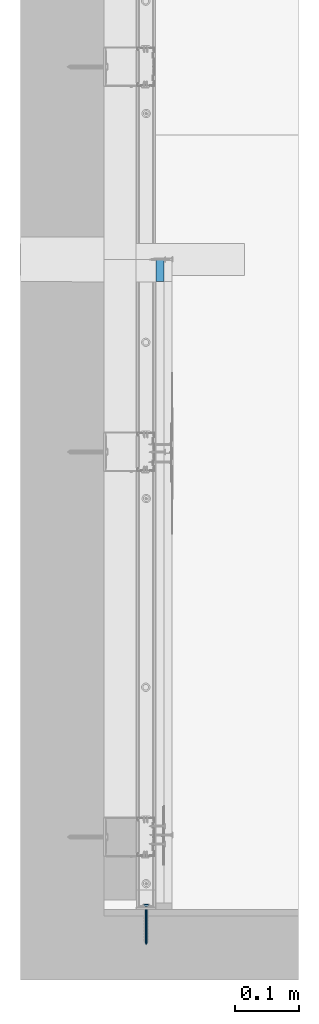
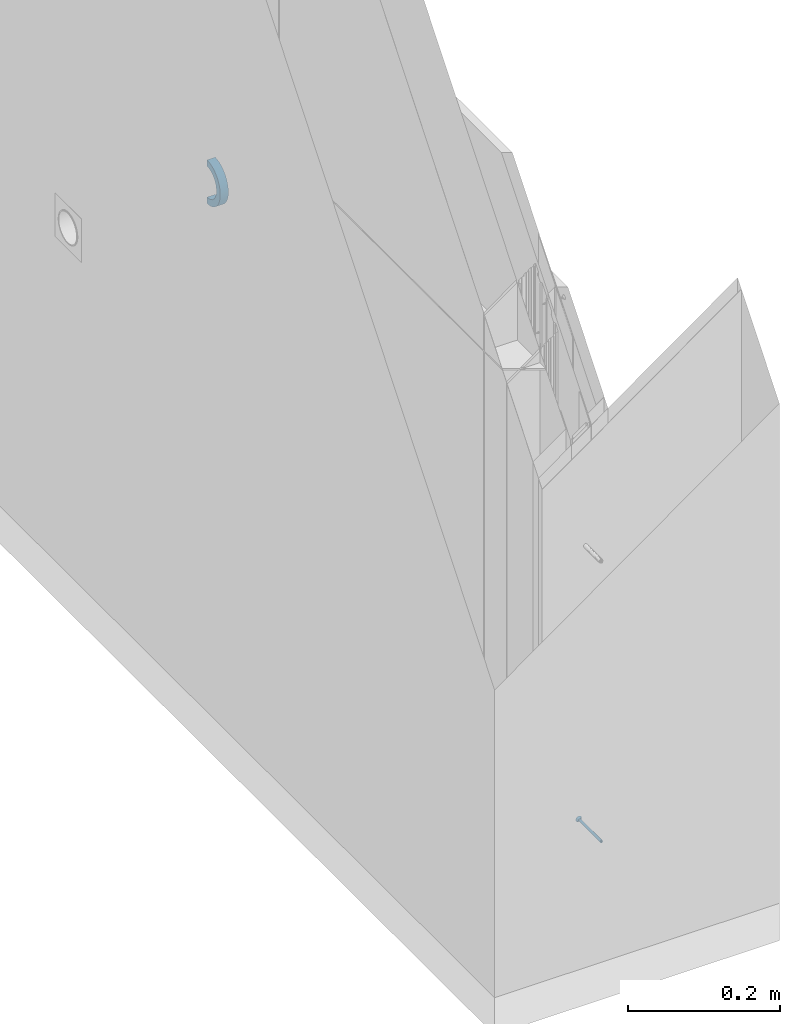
# One storey, part 47 of 61: 2 walls.
"""IFC2X3 building model written with IfcOpenShell, lengths in millimetres."""

from ifc_helpers import new_model, si_unit, frame, origin_with_axes, place, context, subcontext, project, spatial, faceted_brep, material, type_object, element, save


model = new_model("IFC2X3")

# Units and contexts
model_context = context("Model", 3, world=origin_with_axes())
body_context = subcontext(model_context, "Body", "Model", "MODEL_VIEW")
ifc_project = project(units=[si_unit("LENGTHUNIT", "METRE", prefix="MILLI"), si_unit("AREAUNIT", "SQUARE_METRE"), si_unit("VOLUMEUNIT", "CUBIC_METRE")], contexts=[model_context])

# Site, building, storey
site_placement = place(None, frame((2152.1410261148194, -2015.0250894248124, 57.61556563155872), z_axis=(0.0, 0.0, 1.0), x_axis=(-1.1102230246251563e-16, 1.0, 0.0)))
site = spatial("IfcSite", under=ifc_project, at=site_placement, Name="Default Site", CompositionType="ELEMENT")
building_placement = place(site_placement, origin_with_axes())
building = spatial("IfcBuilding", under=site, at=building_placement, Name="Default Building", CompositionType="ELEMENT")
storey_placement = place(building_placement, origin_with_axes())
storey = spatial("IfcBuildingStorey", under=building, at=storey_placement, Name="Default Building Storey", CompositionType="ELEMENT", Elevation=57.61556563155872)

# Walls
ifc_material_1 = material(Name="M08_Obsidian_Black")
wall_type_1 = type_object("IfcWallType", Name="Wypełnienie masą szpachlową RIGIPS", PredefinedType="NOTDEFINED")
wall_1_placement = place(storey_placement, frame((3138.037079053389, 1928.6800774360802, 609.2578275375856), z_axis=(0.0, 0.0, 1.0), x_axis=(1.0, 0.0, 0.0)))
element("IfcWall", 1, at=wall_1_placement, inside=storey, type_object=wall_type_1, material=ifc_material_1, Name="Wypełnienie masą szpachlową RIGIPS", context=body_context, shape_type="Brep", body=[
    faceted_brep([(0.0, 12.50000009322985, -84.9303099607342), (0.0, 12.50000009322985, -74.74771466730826), (0.0, 4.511946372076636e-14, -74.74771466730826), (0.0, 4.511946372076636e-14, -84.9303099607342), (-2.1976681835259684, 12.50000009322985, -84.8612454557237), (-4.386663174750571, 12.50000009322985, -84.65432450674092), (-6.558346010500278, 12.50000009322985, -84.31036373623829), (-8.704146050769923, 12.50000009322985, -83.8307206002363), (-10.815594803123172, 12.500000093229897, -83.21728803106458), (-12.884359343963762, 12.500000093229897, -82.47248696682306), (-14.902275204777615, 12.500000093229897, -81.59925679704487), (-16.86137859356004, 12.500000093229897, -80.60104376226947), (-18.753937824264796, 12.500000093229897, -79.48178735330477), (-20.57248383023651, 12.500000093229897, -78.2459047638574), (-22.309839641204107, 12.500000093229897, -76.89827345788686), (-23.959148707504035, 12.500000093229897, -75.44421192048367), (-25.513901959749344, 12.500000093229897, -73.88945866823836), (-26.967963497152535, 12.500000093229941, -72.24014960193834), (-28.31559480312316, 12.500000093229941, -70.50279379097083), (-29.55147739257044, 12.500000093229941, -68.68424778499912), (-30.670733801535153, 12.500000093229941, -66.79168855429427), (-31.668946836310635, 12.500000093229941, -64.83258516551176), (-32.54217700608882, 12.500000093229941, -62.8146693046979), (-33.28697807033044, 12.500000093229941, -60.7459047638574), (-33.900410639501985, 12.500000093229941, -58.634456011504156), (-34.38005377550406, 12.500000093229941, -56.4886559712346), (-34.724014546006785, 12.500000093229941, -54.31697313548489), (-34.93093549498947, 12.500000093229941, -52.1279781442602), (-34.99999999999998, 12.500000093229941, -49.930309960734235), (-34.93093549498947, 12.500000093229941, -47.732641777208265), (-34.724014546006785, 12.500000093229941, -45.54364678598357), (-34.38005377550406, 12.500000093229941, -43.37196395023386), (-33.900410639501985, 12.500000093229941, -41.226163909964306), (-33.28697807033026, 12.500000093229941, -39.11471515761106), (-32.54217700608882, 12.500000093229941, -37.04595061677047), (-31.668946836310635, 12.500000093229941, -35.02803475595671), (-30.670733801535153, 12.500000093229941, -33.068931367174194), (-29.55147739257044, 12.500000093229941, -31.176372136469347), (-28.31559480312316, 12.500000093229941, -29.35782613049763), (-26.967963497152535, 12.500000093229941, -27.620470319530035), (-25.513901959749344, 12.500000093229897, -25.971161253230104), (-23.959148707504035, 12.500000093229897, -24.4164080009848), (-22.309839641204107, 12.500000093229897, -22.962346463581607), (-20.57248383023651, 12.500000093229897, -21.61471515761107), (-18.753937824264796, 12.500000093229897, -20.3788325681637), (-16.86137859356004, 12.500000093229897, -19.25957615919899), (-14.902275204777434, 12.500000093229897, -18.261363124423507), (-12.884359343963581, 12.500000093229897, -17.38813295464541), (-10.815594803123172, 12.500000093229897, -16.643331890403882), (-8.704146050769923, 12.50000009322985, -16.029899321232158), (-6.558346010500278, 12.50000009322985, -15.550256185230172), (-4.386663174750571, 12.50000009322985, -15.206295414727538), (-2.1976681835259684, 12.50000009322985, -14.999374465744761), (0.0, 12.50000009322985, -14.93030996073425), (0.0, 12.50000009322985, -25.112905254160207), (-4.503166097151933, 12.500000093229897, -25.339224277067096), (-10.714365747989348, 12.500000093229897, -27.342650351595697), (-16.19539907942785, 12.500000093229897, -30.885388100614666), (-20.57274272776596, 12.500000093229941, -35.726005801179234), (-23.5480879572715, 12.500000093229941, -41.53462335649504), (-24.918669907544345, 12.500000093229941, -47.91539307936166), (-24.59108568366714, 12.500000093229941, -54.43347605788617), (-22.587659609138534, 12.500000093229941, -60.64467570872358), (-19.04492186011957, 12.500000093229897, -66.12570904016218), (-14.204304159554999, 12.500000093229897, -70.50305268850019), (-8.395686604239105, 12.500000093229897, -73.47839791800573), (-2.0149168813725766, 12.50000009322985, -74.84897986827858), (-2.0149168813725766, 4.511946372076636e-14, -74.84897986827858), (-8.395686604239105, 9.023892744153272e-14, -73.47839791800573), (-14.204304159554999, 9.023892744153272e-14, -70.50305268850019), (-19.04492186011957, 9.023892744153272e-14, -66.12570904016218), (-22.587659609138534, 1.3535839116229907e-13, -60.64467570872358), (-24.59108568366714, 1.3535839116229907e-13, -54.43347605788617), (-24.918669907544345, 1.3535839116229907e-13, -47.91539307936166), (-23.5480879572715, 1.3535839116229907e-13, -41.53462335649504), (-20.57274272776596, 1.3535839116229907e-13, -35.726005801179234), (-16.19539907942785, 9.023892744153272e-14, -30.885388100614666), (-10.714365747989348, 9.023892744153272e-14, -27.342650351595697), (-4.503166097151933, 9.023892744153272e-14, -25.339224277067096), (0.0, 4.511946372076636e-14, -25.112905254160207), (0.0, 4.511946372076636e-14, -14.93030996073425), (-2.1976681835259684, 4.511946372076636e-14, -14.999374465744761), (-4.386663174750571, 4.511946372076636e-14, -15.206295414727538), (-6.558346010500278, 4.511946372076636e-14, -15.550256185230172), (-8.704146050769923, 4.511946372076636e-14, -16.029899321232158), (-10.815594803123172, 9.023892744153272e-14, -16.643331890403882), (-12.884359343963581, 9.023892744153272e-14, -17.38813295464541), (-14.902275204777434, 9.023892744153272e-14, -18.261363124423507), (-16.86137859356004, 9.023892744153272e-14, -19.25957615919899), (-18.753937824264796, 9.023892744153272e-14, -20.3788325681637), (-20.57248383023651, 9.023892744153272e-14, -21.61471515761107), (-22.309839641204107, 9.023892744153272e-14, -22.962346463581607), (-23.959148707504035, 9.023892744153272e-14, -24.4164080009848), (-25.513901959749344, 9.023892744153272e-14, -25.971161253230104), (-26.967963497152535, 1.3535839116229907e-13, -27.620470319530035), (-28.31559480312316, 1.3535839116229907e-13, -29.35782613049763), (-29.55147739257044, 1.3535839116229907e-13, -31.176372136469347), (-30.670733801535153, 1.3535839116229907e-13, -33.068931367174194), (-31.668946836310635, 1.3535839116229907e-13, -35.02803475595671), (-32.54217700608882, 1.3535839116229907e-13, -37.04595061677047), (-33.28697807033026, 1.3535839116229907e-13, -39.11471515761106), (-33.900410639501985, 1.3535839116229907e-13, -41.226163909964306), (-34.38005377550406, 1.3535839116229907e-13, -43.37196395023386), (-34.724014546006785, 1.3535839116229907e-13, -45.54364678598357), (-34.93093549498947, 1.3535839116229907e-13, -47.732641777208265), (-34.99999999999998, 1.3535839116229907e-13, -49.930309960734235), (-34.93093549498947, 1.3535839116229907e-13, -52.1279781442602), (-34.724014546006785, 1.3535839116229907e-13, -54.31697313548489), (-34.38005377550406, 1.3535839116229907e-13, -56.4886559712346), (-33.900410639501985, 1.3535839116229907e-13, -58.634456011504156), (-33.28697807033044, 1.3535839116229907e-13, -60.7459047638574), (-32.54217700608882, 1.3535839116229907e-13, -62.8146693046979), (-31.668946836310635, 1.3535839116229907e-13, -64.83258516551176), (-30.670733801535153, 1.3535839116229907e-13, -66.79168855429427), (-29.55147739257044, 1.3535839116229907e-13, -68.68424778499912), (-28.31559480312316, 1.3535839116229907e-13, -70.50279379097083), (-26.967963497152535, 1.3535839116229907e-13, -72.24014960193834), (-25.513901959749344, 9.023892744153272e-14, -73.88945866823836), (-23.959148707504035, 9.023892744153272e-14, -75.44421192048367), (-22.309839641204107, 9.023892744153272e-14, -76.89827345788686), (-20.57248383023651, 9.023892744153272e-14, -78.2459047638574), (-18.753937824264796, 9.023892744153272e-14, -79.48178735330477), (-16.86137859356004, 9.023892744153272e-14, -80.60104376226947), (-14.902275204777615, 9.023892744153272e-14, -81.59925679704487), (-12.884359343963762, 9.023892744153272e-14, -82.47248696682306), (-10.815594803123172, 9.023892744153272e-14, -83.21728803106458), (-8.704146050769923, 4.511946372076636e-14, -83.8307206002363), (-6.558346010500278, 4.511946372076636e-14, -84.31036373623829), (-4.386663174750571, 4.511946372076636e-14, -84.65432450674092), (-2.1976681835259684, 4.511946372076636e-14, -84.8612454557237)], [[[0, 1, 2, 3]], [[1, 0, 4, 5, 6, 7, 8, 9, 10, 11, 12, 13, 14, 15, 16, 17, 18, 19, 20, 21, 22, 23, 24, 25, 26, 27, 28, 29, 30, 31, 32, 33, 34, 35, 36, 37, 38, 39, 40, 41, 42, 43, 44, 45, 46, 47, 48, 49, 50, 51, 52, 53, 54, 55, 56, 57, 58, 59, 60, 61, 62, 63, 64, 65, 66]], [[3, 2, 67, 68, 69, 70, 71, 72, 73, 74, 75, 76, 77, 78, 79, 80, 81, 82, 83, 84, 85, 86, 87, 88, 89, 90, 91, 92, 93, 94, 95, 96, 97, 98, 99, 100, 101, 102, 103, 104, 105, 106, 107, 108, 109, 110, 111, 112, 113, 114, 115, 116, 117, 118, 119, 120, 121, 122, 123, 124, 125, 126, 127, 128, 129]], [[3, 129, 4, 0]], [[129, 128, 5, 4]], [[128, 127, 6, 5]], [[127, 126, 7, 6]], [[126, 125, 8, 7]], [[125, 124, 9, 8]], [[124, 123, 10, 9]], [[123, 122, 11, 10]], [[122, 121, 12, 11]], [[121, 120, 13, 12]], [[120, 119, 14, 13]], [[119, 118, 15, 14]], [[118, 117, 16, 15]], [[117, 116, 17, 16]], [[116, 115, 18, 17]], [[115, 114, 19, 18]], [[114, 113, 20, 19]], [[113, 112, 21, 20]], [[112, 111, 22, 21]], [[111, 110, 23, 22]], [[110, 109, 24, 23]], [[109, 108, 25, 24]], [[108, 107, 26, 25]], [[107, 106, 27, 26]], [[106, 105, 28, 27]], [[105, 104, 29, 28]], [[104, 103, 30, 29]], [[103, 102, 31, 30]], [[102, 101, 32, 31]], [[101, 100, 33, 32]], [[100, 99, 34, 33]], [[99, 98, 35, 34]], [[98, 97, 36, 35]], [[97, 96, 37, 36]], [[96, 95, 38, 37]], [[95, 94, 39, 38]], [[94, 93, 40, 39]], [[93, 92, 41, 40]], [[92, 91, 42, 41]], [[91, 90, 43, 42]], [[90, 89, 44, 43]], [[89, 88, 45, 44]], [[88, 87, 46, 45]], [[87, 86, 47, 46]], [[86, 85, 48, 47]], [[85, 84, 49, 48]], [[84, 83, 50, 49]], [[83, 82, 51, 50]], [[82, 81, 52, 51]], [[81, 80, 53, 52]], [[79, 78, 55, 54]], [[78, 77, 56, 55]], [[77, 76, 57, 56]], [[76, 75, 58, 57]], [[75, 74, 59, 58]], [[74, 73, 60, 59]], [[73, 72, 61, 60]], [[72, 71, 62, 61]], [[71, 70, 63, 62]], [[70, 69, 64, 63]], [[69, 68, 65, 64]], [[68, 67, 66, 65]], [[67, 2, 1, 66]], [[79, 54, 53, 80]]]),
])
ifc_material_2 = material(Name="Default")
wall_type_2 = type_object("IfcWallType", Name="Kołek rozporowy min. fi 6#8", PredefinedType="NOTDEFINED")
wall_2_placement = place(storey_placement, frame((2133.0250912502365, 522.6571418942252, 3603.209700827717), z_axis=(1.0, -7.610887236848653e-14, -5.637157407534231e-13), x_axis=(-7.61088723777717e-14, -1.0, -1.6471369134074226e-11)))
element("IfcWall", 2, at=wall_2_placement, inside=storey, type_object=wall_type_2, material=ifc_material_2, Name="Kołek rozporowy min. fi 6", context=body_context, shape_type="Brep", body=[
    faceted_brep([(-1438.3141994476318, 3453.2833099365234, -0.46425670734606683), (-1435.8141422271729, 3453.2833099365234, -3.464256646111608), (-1435.7895851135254, 3452.970266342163, -3.464256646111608), (-1438.2587671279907, 3452.579259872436, -0.46425670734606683), (-1435.7162714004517, 3452.6650905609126, -3.464256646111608), (-1438.093900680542, 3451.892614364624, -0.46425670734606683), (-1435.5961084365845, 3452.3751735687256, -3.464256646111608), (-1437.8236532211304, 3451.240301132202, -0.46425670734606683), (-1435.4321956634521, 3452.107667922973, -3.464256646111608), (-1437.4547004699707, 3450.6382942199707, -0.46425670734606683), (-1435.22834777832, 3451.8690109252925, -3.464256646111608), (-1436.9961023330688, 3450.101137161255, -0.46425670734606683), (-1434.9896907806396, 3451.665163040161, -3.464256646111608), (-1436.4591836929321, 3449.642658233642, -0.46425670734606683), (-1434.7221851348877, 3451.501131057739, -3.464256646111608), (-1435.8570575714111, 3449.2735862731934, -0.46425670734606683), (-1434.4321489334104, 3451.381206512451, -3.464256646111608), (-1435.2047443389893, 3449.0034580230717, -0.46425670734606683), (-1434.1269731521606, 3451.307773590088, -3.464256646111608), (-1434.5180988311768, 3448.838710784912, -0.46425670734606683), (-1433.8141679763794, 3451.28321647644, -3.464256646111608), (-1433.8141679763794, 3448.7831592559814, -0.46425670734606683), (-1433.5012435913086, 3451.307773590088, -3.464256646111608), (-1433.110237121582, 3448.838710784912, -0.46425670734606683), (-1433.1960678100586, 3451.381206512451, -3.464256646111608), (-1432.4235916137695, 3449.0034580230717, -0.46425670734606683), (-1432.9061508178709, 3451.501131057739, -3.464256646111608), (-1431.771159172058, 3449.2735862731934, -0.46425670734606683), (-1432.6385259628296, 3451.665163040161, -3.464256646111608), (-1431.1691522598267, 3449.642658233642, -0.46425670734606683), (-1432.3999881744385, 3451.8690109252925, -3.464256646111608), (-1430.6321144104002, 3450.101137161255, -0.46425670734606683), (-1432.1961402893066, 3452.107667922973, -3.464256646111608), (-1430.1735162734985, 3450.6382942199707, -0.46425670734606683), (-1432.0321083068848, 3452.3751735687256, -3.464256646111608), (-1429.8045635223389, 3451.240301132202, -0.46425670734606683), (-1431.9120645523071, 3452.6650905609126, -3.464256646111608), (-1429.5344352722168, 3451.892614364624, -0.46425670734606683), (-1431.8387508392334, 3453.5961151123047, -3.464256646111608), (-1429.369568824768, 3453.9871215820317, -0.46425670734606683), (-1429.314136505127, 3453.2833099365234, -0.46425670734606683), (-1431.814193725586, 3453.2833099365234, -3.464256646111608), (-1429.369568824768, 3452.579259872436, -0.46425670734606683), (-1431.8387508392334, 3452.970266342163, -3.464256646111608), (-1431.9120645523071, 3453.9012908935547, -3.464256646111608), (-1429.5344352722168, 3454.6737670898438, -0.46425670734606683), (-1432.0321083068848, 3454.191207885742, -3.464256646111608), (-1429.8045635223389, 3455.3260803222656, -0.46425670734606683), (-1432.1961402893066, 3454.458713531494, -3.464256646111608), (-1430.1735162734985, 3455.9283256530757, -0.46425670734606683), (-1432.3999881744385, 3454.6973705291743, -3.464256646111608), (-1430.6321144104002, 3456.465244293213, -0.46425670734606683), (-1432.6385259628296, 3454.9012184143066, -3.464256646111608), (-1431.1691522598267, 3456.923723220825, -0.46425670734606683), (-1432.9061508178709, 3455.065250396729, -3.464256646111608), (-1431.771159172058, 3457.2927951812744, -0.46425670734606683), (-1433.1960678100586, 3455.1854133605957, -3.464256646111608), (-1432.4235916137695, 3457.562923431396, -0.46425670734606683), (-1433.5012435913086, 3455.25860786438, -3.464256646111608), (-1433.110237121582, 3457.7279090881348, -0.46425670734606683), (-1433.8141679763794, 3455.283164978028, -3.464256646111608), (-1433.8141679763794, 3457.7832221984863, -0.46425670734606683), (-1434.3430995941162, 3457.7519893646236, -0.46425670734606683), (-1434.1269731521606, 3455.25860786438, -3.464256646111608), (-1434.4321489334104, 3455.1854133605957, -3.464256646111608), (-1434.8646402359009, 3457.6590061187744, -0.46425670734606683), (-1435.3716373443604, 3457.504987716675, -0.46425670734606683), (-1434.7221851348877, 3455.065250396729, -3.464256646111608), (-1435.8570575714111, 3457.2927951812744, -0.46425670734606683), (-1434.9896907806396, 3454.9012184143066, -3.464256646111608), (-1435.22834777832, 3454.6973705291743, -3.464256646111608), (-1436.3142251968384, 3457.024812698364, -0.46425670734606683), (-1436.7367029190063, 3456.705093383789, -0.46425670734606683), (-1437.118649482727, 3456.337928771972, -0.46425670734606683), (-1437.4547004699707, 3455.9283256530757, -0.46425670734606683), (-1435.4321956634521, 3454.458713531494, -3.464256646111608), (-1435.5961084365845, 3454.191207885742, -3.464256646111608), (-1437.8236532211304, 3455.3260803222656, -0.46425670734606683), (-1435.7162714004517, 3453.9012908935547, -3.464256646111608), (-1438.093900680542, 3454.6737670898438, -0.46425670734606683), (-1435.7895851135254, 3453.5961151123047, -3.464256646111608), (-1438.2587671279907, 3453.9871215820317, -0.46425670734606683), (-1434.2052936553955, 3455.752372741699, 0.20073754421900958), (-1433.8141679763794, 3455.7831287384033, 0.20073754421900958), (-1434.5866441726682, 3455.6608200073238, 0.20073754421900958), (-1434.9491596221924, 3455.510854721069, 0.20073754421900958), (-1435.2836608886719, 3455.305814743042, 0.20073754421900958), (-1435.581922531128, 3455.0509452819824, 0.20073754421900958), (-1435.836672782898, 3454.7526836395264, 0.20073754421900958), (-1436.0417127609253, 3454.418182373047, 0.20073754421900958), (-1436.1917972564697, 3454.0557861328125, 0.20073754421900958), (-1436.2833499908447, 3453.6743164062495, 0.20073754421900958), (-1436.3141059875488, 3453.2833099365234, 0.20073754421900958), (-1436.2833499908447, 3452.8920650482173, 0.20073754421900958), (-1436.1917972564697, 3452.5105953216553, 0.20073754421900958), (-1436.0417127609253, 3452.148199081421, 0.20073754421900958), (-1435.836672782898, 3451.8136978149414, 0.20073754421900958), (-1435.581922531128, 3451.5154361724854, 0.20073754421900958), (-1435.2836608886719, 3451.260566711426, 0.20073754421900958), (-1434.9491596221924, 3451.0557651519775, 0.20073754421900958), (-1434.5866441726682, 3450.905561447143, 0.20073754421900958), (-1433.4230422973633, 3450.8140087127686, 0.20073754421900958), (-1433.8141679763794, 3450.7832527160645, 0.20073754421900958), (-1434.2052936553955, 3450.8140087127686, 0.20073754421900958), (-1433.0415725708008, 3450.905561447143, 0.20073754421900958), (-1432.6791763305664, 3451.0557651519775, 0.20073754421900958), (-1432.344675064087, 3451.260566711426, 0.20073754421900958), (-1432.0464134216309, 3451.5154361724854, 0.20073754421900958), (-1431.7916631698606, 3451.8136978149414, 0.20073754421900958), (-1431.5866231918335, 3452.148199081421, 0.20073754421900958), (-1431.436538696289, 3452.5105953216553, 0.20073754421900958), (-1431.344985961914, 3452.8920650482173, 0.20073754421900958), (-1431.3141107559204, 3453.2833099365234, 0.20073754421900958), (-1431.344985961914, 3453.6743164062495, 0.20073754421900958), (-1431.436538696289, 3454.0557861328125, 0.20073754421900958), (-1431.5866231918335, 3454.418182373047, 0.20073754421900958), (-1431.7916631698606, 3454.7526836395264, 0.20073754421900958), (-1432.0464134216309, 3455.0509452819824, 0.20073754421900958), (-1432.344675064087, 3455.305814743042, 0.20073754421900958), (-1432.6791763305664, 3455.510854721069, 0.20073754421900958), (-1433.0415725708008, 3455.6608200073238, 0.20073754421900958), (-1433.4230422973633, 3455.752372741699, 0.20073754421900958), (-1433.8141679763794, 3453.2833099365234, -63.46425414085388), (-1435.7895851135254, 3452.970266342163, -60.464255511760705), (-1435.8141422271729, 3453.2833099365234, -60.464255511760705), (-1435.7162714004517, 3452.6650905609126, -60.464255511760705), (-1435.5961084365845, 3452.3751735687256, -60.464255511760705), (-1435.4321956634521, 3452.107667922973, -60.464255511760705), (-1435.22834777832, 3451.8690109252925, -60.464255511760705), (-1434.9896907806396, 3451.665163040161, -60.464255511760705), (-1434.7221851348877, 3451.501131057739, -60.464255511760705), (-1434.4321489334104, 3451.381206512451, -60.464255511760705), (-1434.1269731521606, 3451.307773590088, -60.464255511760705), (-1433.8141679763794, 3451.28321647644, -60.464255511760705), (-1433.5012435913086, 3451.307773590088, -60.464255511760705), (-1433.1960678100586, 3451.381206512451, -60.464255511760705), (-1432.9061508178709, 3451.501131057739, -60.464255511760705), (-1432.6385259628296, 3451.665163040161, -60.464255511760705), (-1432.3999881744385, 3451.8690109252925, -60.464255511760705), (-1432.1961402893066, 3452.107667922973, -60.464255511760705), (-1432.0321083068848, 3452.3751735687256, -60.464255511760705), (-1431.9120645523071, 3452.6650905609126, -60.464255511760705), (-1431.8387508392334, 3452.970266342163, -60.464255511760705), (-1431.814193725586, 3453.2833099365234, -60.464255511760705), (-1431.8387508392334, 3453.5961151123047, -60.464255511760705), (-1431.9120645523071, 3453.9012908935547, -60.464255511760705), (-1432.0321083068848, 3454.191207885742, -60.464255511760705), (-1432.1961402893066, 3454.458713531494, -60.464255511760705), (-1432.3999881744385, 3454.6973705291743, -60.464255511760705), (-1432.6385259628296, 3454.9012184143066, -60.464255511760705), (-1432.9061508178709, 3455.065250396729, -60.464255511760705), (-1433.1960678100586, 3455.1854133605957, -60.464255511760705), (-1433.5012435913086, 3455.25860786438, -60.464255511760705), (-1433.8141679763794, 3455.283164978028, -60.464255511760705), (-1434.1269731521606, 3455.25860786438, -60.464255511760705), (-1434.4321489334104, 3455.1854133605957, -60.464255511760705), (-1434.7221851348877, 3455.065250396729, -60.464255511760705), (-1434.9896907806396, 3454.9012184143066, -60.464255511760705), (-1435.22834777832, 3454.6973705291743, -60.464255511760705), (-1435.4321956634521, 3454.458713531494, -60.464255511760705), (-1435.5961084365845, 3454.191207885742, -60.464255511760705), (-1435.7162714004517, 3453.9012908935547, -60.464255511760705), (-1435.7895851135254, 3453.5961151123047, -60.464255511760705), (-1436.0417127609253, 3454.418182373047, 0.049999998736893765), (-1436.1917972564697, 3454.0557861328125, 0.049999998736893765), (-1436.2833499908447, 3453.6743164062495, 0.049999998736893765), (-1436.3141059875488, 3453.2833099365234, 0.049999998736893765), (-1436.2833499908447, 3452.8920650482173, 0.049999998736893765), (-1436.1917972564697, 3452.5105953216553, 0.049999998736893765), (-1436.0417127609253, 3452.148199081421, 0.049999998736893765), (-1435.836672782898, 3451.8136978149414, 0.049999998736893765), (-1435.581922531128, 3451.5154361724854, 0.049999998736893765), (-1435.2836608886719, 3451.260566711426, 0.049999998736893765), (-1434.9491596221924, 3451.0557651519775, 0.049999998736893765), (-1434.5866441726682, 3450.905561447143, 0.049999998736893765), (-1434.2052936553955, 3450.8140087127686, 0.049999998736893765), (-1433.8141679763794, 3450.7832527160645, 0.049999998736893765), (-1433.4230422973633, 3450.8140087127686, 0.049999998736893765), (-1433.0415725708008, 3450.905561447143, 0.049999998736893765), (-1432.6791763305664, 3451.0557651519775, 0.049999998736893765), (-1432.344675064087, 3451.260566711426, 0.049999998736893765), (-1432.0464134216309, 3451.5154361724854, 0.049999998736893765), (-1431.7916631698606, 3451.8136978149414, 0.049999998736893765), (-1431.5866231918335, 3452.148199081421, 0.049999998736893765), (-1431.436538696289, 3452.5105953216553, 0.049999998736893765), (-1431.344985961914, 3452.8920650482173, 0.049999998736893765), (-1431.3141107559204, 3453.2833099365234, 0.049999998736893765), (-1431.344985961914, 3453.6743164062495, 0.049999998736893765), (-1431.436538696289, 3454.0557861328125, 0.049999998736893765), (-1431.5866231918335, 3454.418182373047, 0.049999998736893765), (-1431.7916631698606, 3454.7526836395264, 0.049999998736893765), (-1432.0464134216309, 3455.0509452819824, 0.049999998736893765), (-1432.344675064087, 3455.305814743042, 0.049999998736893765), (-1432.6791763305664, 3455.510854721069, 0.049999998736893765), (-1433.0415725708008, 3455.6608200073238, 0.049999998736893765), (-1433.4230422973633, 3455.752372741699, 0.049999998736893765), (-1433.8141679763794, 3455.7831287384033, 0.049999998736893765), (-1434.2052936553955, 3455.752372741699, 0.049999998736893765), (-1434.5866441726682, 3455.6608200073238, 0.049999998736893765), (-1434.9491596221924, 3455.510854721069, 0.049999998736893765), (-1435.2836608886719, 3455.305814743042, 0.049999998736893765), (-1435.581922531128, 3455.0509452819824, 0.049999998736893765), (-1435.836672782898, 3454.7526836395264, 0.049999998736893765), (-1434.3141317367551, 3452.7831077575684, 0.049999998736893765), (-1435.8141422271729, 3452.7831077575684, 0.049999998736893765), (-1435.8141422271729, 3453.7832736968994, 0.049999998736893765), (-1434.3141317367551, 3453.7832736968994, 0.049999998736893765), (-1434.3141317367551, 3455.283164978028, 0.049999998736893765), (-1433.3142042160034, 3455.283164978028, 0.049999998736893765), (-1433.3142042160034, 3453.7832736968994, 0.049999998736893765), (-1431.814193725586, 3453.7832736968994, 0.049999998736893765), (-1431.814193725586, 3452.7831077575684, 0.049999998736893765), (-1433.3142042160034, 3452.7831077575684, 0.049999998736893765), (-1433.3142042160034, 3451.28321647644, 0.049999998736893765), (-1434.3141317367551, 3451.28321647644, 0.049999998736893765), (-1434.3141317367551, 3452.7831077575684, -1.799262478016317), (-1434.3141317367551, 3451.28321647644, -1.799262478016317), (-1433.3142042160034, 3451.28321647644, -1.799262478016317), (-1433.3142042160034, 3452.7831077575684, -1.799262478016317), (-1431.814193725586, 3452.7831077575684, -1.799262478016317), (-1431.814193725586, 3453.7832736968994, -1.799262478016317), (-1433.3142042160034, 3453.7832736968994, -1.799262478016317), (-1433.3142042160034, 3455.283164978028, -1.799262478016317), (-1434.3141317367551, 3455.283164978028, -1.799262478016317), (-1434.3141317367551, 3453.7832736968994, -1.799262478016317), (-1435.8141422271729, 3453.7832736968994, -1.799262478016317), (-1435.8141422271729, 3452.7831077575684, -1.799262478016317)], [[[0, 1, 2, 3]], [[4, 5, 3, 2]], [[6, 7, 5, 4]], [[7, 6, 8, 9]], [[10, 11, 9, 8]], [[11, 10, 12, 13]], [[14, 15, 13, 12]], [[16, 17, 15, 14]], [[17, 16, 18, 19]], [[20, 21, 19, 18]], [[21, 20, 22, 23]], [[24, 25, 23, 22]], [[26, 27, 25, 24]], [[27, 26, 28, 29]], [[30, 31, 29, 28]], [[31, 30, 32, 33]], [[34, 35, 33, 32]], [[36, 37, 35, 34]], [[38, 39, 40, 41]], [[41, 40, 42, 43]], [[37, 36, 43, 42]], [[44, 45, 39, 38]], [[46, 47, 45, 44]], [[47, 46, 48, 49]], [[50, 51, 49, 48]], [[51, 50, 52, 53]], [[54, 55, 53, 52]], [[56, 57, 55, 54]], [[57, 56, 58, 59]], [[60, 61, 59, 58]], [[62, 61, 63]], [[61, 60, 63]], [[63, 64, 62]], [[64, 65, 62]], [[66, 65, 64]], [[64, 67, 66]], [[67, 68, 66]], [[69, 70, 71]], [[70, 72, 71]], [[71, 68, 69]], [[68, 67, 69]], [[70, 73, 72]], [[74, 73, 75]], [[73, 70, 75]], [[76, 77, 74, 75]], [[78, 79, 77, 76]], [[79, 78, 80, 81]], [[1, 0, 81, 80]], [[82, 83, 62]], [[83, 61, 62]], [[62, 65, 82]], [[65, 84, 82]], [[66, 68, 84]], [[68, 85, 84]], [[84, 65, 66]], [[86, 85, 71]], [[85, 68, 71]], [[72, 73, 87]], [[87, 86, 72]], [[86, 71, 72]], [[88, 87, 74]], [[87, 73, 74]], [[77, 89, 88, 74]], [[79, 90, 89, 77]], [[90, 79, 81, 91]], [[0, 92, 91, 81]], [[92, 0, 3, 93]], [[5, 94, 93, 3]], [[7, 95, 94, 5]], [[95, 7, 9, 96]], [[11, 97, 96, 9]], [[97, 11, 13, 98]], [[15, 99, 98, 13]], [[17, 100, 99, 15]], [[23, 101, 102, 21]], [[21, 102, 103, 19]], [[100, 17, 19, 103]], [[25, 104, 101, 23]], [[27, 105, 104, 25]], [[105, 27, 29, 106]], [[31, 107, 106, 29]], [[107, 31, 33, 108]], [[35, 109, 108, 33]], [[37, 110, 109, 35]], [[110, 37, 42, 111]], [[40, 112, 111, 42]], [[112, 40, 39, 113]], [[45, 114, 113, 39]], [[47, 115, 114, 45]], [[115, 47, 49, 116]], [[51, 117, 116, 49]], [[117, 51, 53, 118]], [[55, 119, 118, 53]], [[57, 120, 119, 55]], [[120, 57, 59, 121]], [[61, 83, 121, 59]], [[122, 123, 124]], [[122, 125, 123]], [[122, 126, 125]], [[127, 126, 122]], [[122, 128, 127]], [[129, 128, 122]], [[122, 130, 129]], [[122, 131, 130]], [[132, 131, 122]], [[122, 133, 132]], [[134, 133, 122]], [[122, 135, 134]], [[122, 136, 135]], [[137, 136, 122]], [[122, 138, 137]], [[139, 138, 122]], [[122, 140, 139]], [[122, 141, 140]], [[142, 141, 122]], [[122, 143, 142]], [[144, 143, 122]], [[122, 145, 144]], [[122, 146, 145]], [[147, 146, 122]], [[122, 148, 147]], [[149, 148, 122]], [[122, 150, 149]], [[122, 151, 150]], [[152, 151, 122]], [[122, 153, 152]], [[154, 153, 122]], [[122, 155, 154]], [[122, 156, 155]], [[157, 156, 122]], [[122, 158, 157]], [[159, 158, 122]], [[122, 160, 159]], [[122, 161, 160]], [[162, 161, 122]], [[124, 162, 122]], [[1, 124, 123, 2]], [[125, 4, 2, 123]], [[126, 6, 4, 125]], [[6, 126, 127, 8]], [[128, 10, 8, 127]], [[10, 128, 129, 12]], [[130, 14, 12, 129]], [[131, 16, 14, 130]], [[16, 131, 132, 18]], [[133, 20, 18, 132]], [[20, 133, 134, 22]], [[135, 24, 22, 134]], [[136, 26, 24, 135]], [[26, 136, 137, 28]], [[138, 30, 28, 137]], [[30, 138, 139, 32]], [[140, 34, 32, 139]], [[141, 36, 34, 140]], [[144, 38, 41, 143]], [[143, 41, 43, 142]], [[36, 141, 142, 43]], [[145, 44, 38, 144]], [[146, 46, 44, 145]], [[46, 146, 147, 48]], [[148, 50, 48, 147]], [[50, 148, 149, 52]], [[150, 54, 52, 149]], [[151, 56, 54, 150]], [[56, 151, 152, 58]], [[153, 60, 58, 152]], [[60, 153, 154, 63]], [[155, 64, 63, 154]], [[156, 67, 64, 155]], [[67, 156, 157, 69]], [[158, 70, 69, 157]], [[70, 158, 159, 75]], [[160, 76, 75, 159]], [[161, 78, 76, 160]], [[78, 161, 162, 80]], [[124, 1, 80, 162]], [[163, 164, 165, 166, 167, 168, 169, 170, 171, 172, 173, 174, 175, 176, 177, 178, 179, 180, 181, 182, 183, 184, 185, 186, 187, 188, 189, 190, 191, 192, 193, 194, 195, 196, 197, 198, 199, 200, 201, 202], [203, 204, 205, 206, 207, 208, 209, 210, 211, 212, 213, 214]], [[187, 186, 112, 113]], [[113, 114, 188, 187]], [[114, 115, 189, 188]], [[190, 189, 115, 116]], [[116, 117, 191, 190]], [[192, 191, 117, 118]], [[118, 119, 193, 192]], [[119, 120, 194, 193]], [[195, 194, 120, 121]], [[121, 83, 196, 195]], [[197, 196, 83, 82]], [[82, 84, 198, 197]], [[84, 85, 199, 198]], [[200, 199, 85, 86]], [[86, 87, 201, 200]], [[202, 201, 87, 88]], [[88, 89, 163, 202]], [[89, 90, 164, 163]], [[92, 93, 167, 166]], [[91, 92, 166, 165]], [[165, 164, 90, 91]], [[93, 94, 168, 167]], [[94, 95, 169, 168]], [[170, 169, 95, 96]], [[96, 97, 171, 170]], [[172, 171, 97, 98]], [[98, 99, 173, 172]], [[99, 100, 174, 173]], [[175, 174, 100, 103]], [[103, 102, 176, 175]], [[177, 176, 102, 101]], [[101, 104, 178, 177]], [[104, 105, 179, 178]], [[180, 179, 105, 106]], [[106, 107, 181, 180]], [[182, 181, 107, 108]], [[108, 109, 183, 182]], [[109, 110, 184, 183]], [[185, 184, 110, 111]], [[111, 112, 186, 185]], [[215, 216, 217, 218, 219, 220, 221, 222, 223, 224, 225, 226]], [[216, 214, 213, 217]], [[215, 203, 214, 216]], [[226, 204, 203, 215]], [[225, 205, 204, 226]], [[224, 206, 205, 225]], [[223, 207, 206, 224]], [[222, 208, 207, 223]], [[221, 209, 208, 222]], [[220, 210, 209, 221]], [[219, 211, 210, 220]], [[218, 212, 211, 219]], [[217, 213, 212, 218]]]),
])

save(model, "model.ifc")
